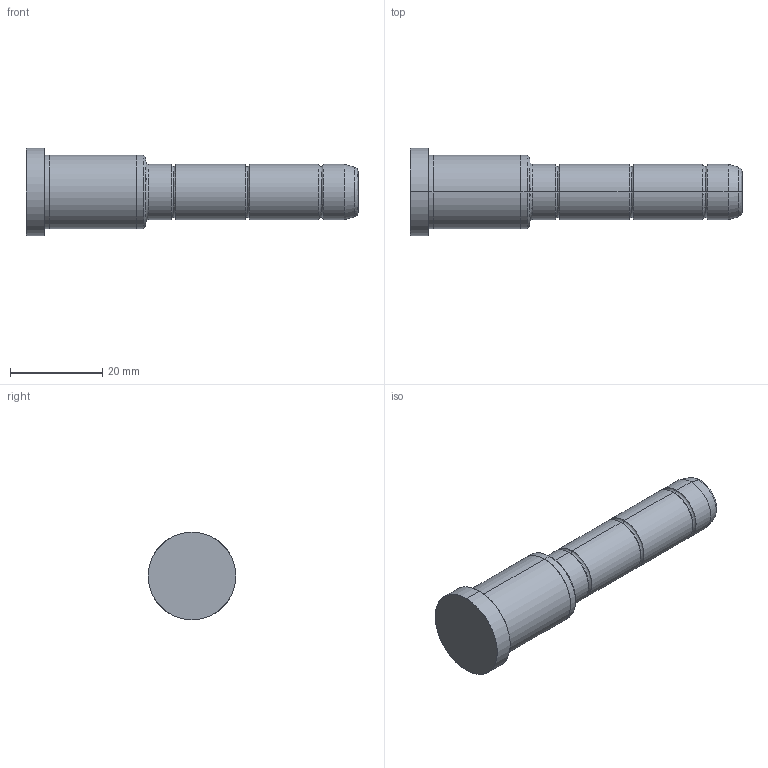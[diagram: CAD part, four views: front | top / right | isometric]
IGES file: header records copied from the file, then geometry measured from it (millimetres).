
Start section: SolidWorks IGES file using analytic representation for surfaces
Global section: file name: C:\Documents and Settings\kalite-mail\Desktop\IGS\D02\12\D02 - 12x26x46.IGS; native system: SolidWorks 2008; preprocessor: SolidWorks 2008; author: kalite-mail; date: 080616.135044; units: millimetre
Bounding box: 72 x 19 x 19 mm (x, y, z)
Surface area: 3640.3 mm2 (no closed solid volume)
Topology: 0 solids, 0 shells, 42 faces, 464 edges, 464 vertices
Faces by surface type: bspline 22, revolution 20
